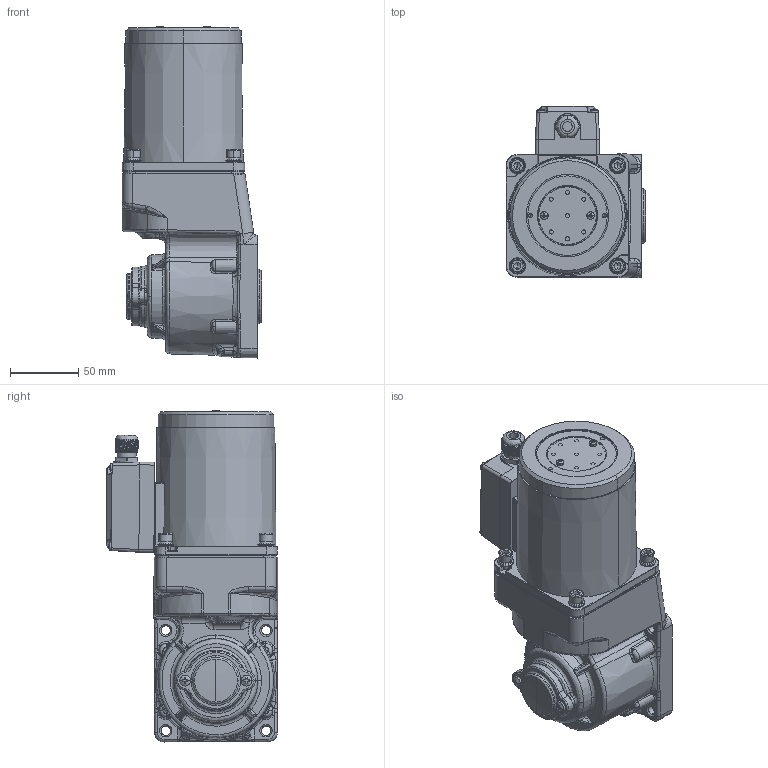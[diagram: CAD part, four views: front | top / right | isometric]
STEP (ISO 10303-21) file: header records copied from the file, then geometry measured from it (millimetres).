
FILE_DESCRIPTION (( 'STEP AP203' ), '1' );
FILE_NAME ('5RK40GU-CT(5GU3RC-180RC)ÐÂ.STEP', '2023-08-17T07:03:33', ( 'Windows User' ), ( 'P R C' ), 'SwSTEP 2.0', 'SolidWorks 2019', '' );
FILE_SCHEMA (( 'CONFIG_CONTROL_DESIGN' ));
Length unit declared in the file: millimetre
Products named in the file (9): 90RT____________^5RK40GU-CT(5GU3RC-180RC)陔(2)_5RK40GU-CT(5GU3RC-180RC)陔; ZD-5GU50RC-505-003______1^5RK40GU-CT(5GU3RC-180RC)ÐÂ(2)_5RK40GU-CT(5GU3RC-180RC)ÐÂ; 5RK40GU-CT(5GU3RC-180RC)^5RK40GU-CT(5GU3RC-180RC)ÐÂ(2)_5RK40GU-CT(5GU3RC-180RC)ÐÂ; cross recessed pan head screws gb_GB_CROSS_SCREWS_TYPE1 M4X6-6  H type-N^5RK40GU-CT(5GU3RC-180RC)ÐÂ(2)_5RK40GU-CT(5GU3RC-180RC)ÐÂ; hexagon socket head cap screws gb_GB_FASTENER_SCREWS_HSHCS M5X12-N^5RK40GU-CT(5GU3RC-180RC)ÐÂ(2)_5RK40GU-CT(5GU3RC-180RC)ÐÂ; 90__________^5RK40GU-CT(5GU3RC-180RC)陔(2)_5RK40GU-CT(5GU3RC-180RC)陔; 90__________-0^5RK40GU-CT(5GU3RC-180RC)陔(2)_5RK40GU-CT(5GU3RC-180RC)陔; 5RK40GU-CT(5GU3RC-180RC)陔; 5RK40GU-CT(5GU3RC-180RC)陔(2)^5RK40GU-CT(5GU3RC-180RC)陔
Assembly tree (12 placements, depth 3):
  5RK40GU-CT(5GU3RC-180RC)陔
    5RK40GU-CT(5GU3RC-180RC)陔(2)^5RK40GU-CT(5GU3RC-180RC)陔
      90__________^5RK40GU-CT(5GU3RC-180RC)陔(2)_5RK40GU-CT(5GU3RC-180RC)陔
      90RT____________^5RK40GU-CT(5GU3RC-180RC)陔(2)_5RK40GU-CT(5GU3RC-180RC)陔
      90__________-0^5RK40GU-CT(5GU3RC-180RC)陔(2)_5RK40GU-CT(5GU3RC-180RC)陔
      hexagon socket head cap screws gb_GB_FASTENER_SCREWS_HSHCS M5X12-N^5RK40GU-CT(5GU3RC-180RC)ÐÂ(2)_5RK40GU-CT(5GU3RC-180RC)ÐÂ  x4
      ZD-5GU50RC-505-003______1^5RK40GU-CT(5GU3RC-180RC)ÐÂ(2)_5RK40GU-CT(5GU3RC-180RC)ÐÂ
      cross recessed pan head screws gb_GB_CROSS_SCREWS_TYPE1 M4X6-6  H type-N^5RK40GU-CT(5GU3RC-180RC)ÐÂ(2)_5RK40GU-CT(5GU3RC-180RC)ÐÂ  x2
      5RK40GU-CT(5GU3RC-180RC)^5RK40GU-CT(5GU3RC-180RC)ÐÂ(2)_5RK40GU-CT(5GU3RC-180RC)ÐÂ
Bounding box: 102.5 x 125.86 x 243.4 mm (x, y, z)
Volume: 1565050.1 mm3; surface area: 189960.9 mm2
Topology: 35 solids, 36 shells, 2866 faces, 7064 edges, 4180 vertices
Faces by surface type: cone 839, plane 690, cylinder 690, bspline 558, torus 83, sphere 6
Entity records: 114921 total; most frequent: CARTESIAN_POINT 53502, ORIENTED_EDGE 13354, DIRECTION 11846, EDGE_CURVE 6677, AXIS2_PLACEMENT_3D 4753, VERTEX_POINT 4037, EDGE_LOOP 2878, FACE_OUTER_BOUND 2766
